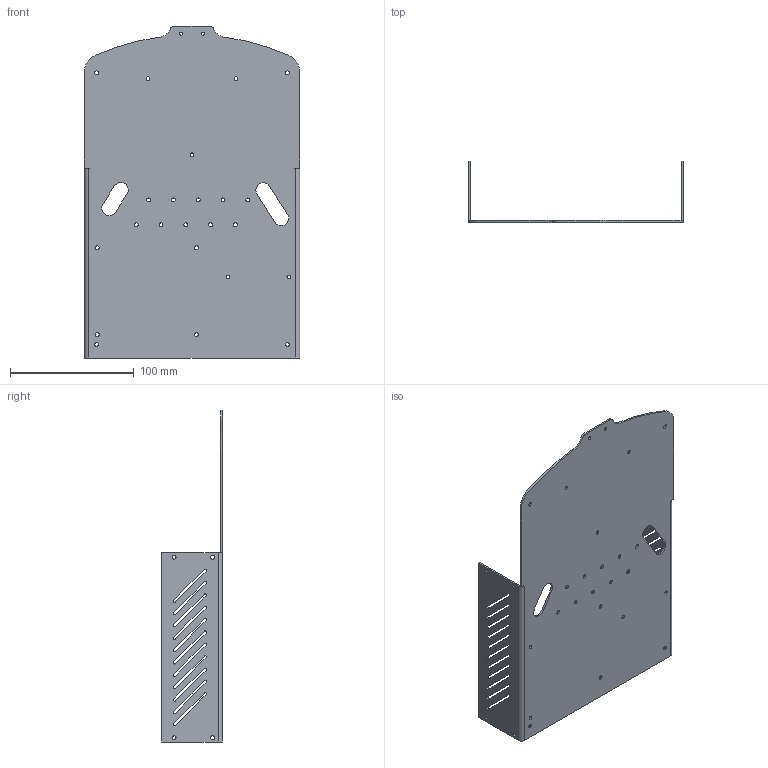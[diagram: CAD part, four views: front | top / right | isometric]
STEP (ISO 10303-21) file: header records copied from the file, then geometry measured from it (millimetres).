
FILE_DESCRIPTION (( 'STEP AP214' ), '1' );
FILE_NAME ('top plate.STEP', '2024-02-28T19:50:28', ( '' ), ( '' ), 'SwSTEP 2.0', 'SolidWorks 2023', '' );
FILE_SCHEMA (( 'AUTOMOTIVE_DESIGN' ));
Length unit declared in the file: millimetre
Products named in the file (1): top plate
Bounding box: 174 x 49.2 x 267.88 mm (x, y, z)
Volume: 83996.2 mm3; surface area: 116808.4 mm2
Topology: 1 solids, 1 shells, 224 faces, 650 edges, 428 vertices
Faces by surface type: cylinder 150, plane 74
Entity records: 7757 total; most frequent: DIRECTION 1400, CARTESIAN_POINT 1303, ORIENTED_EDGE 1300, EDGE_CURVE 650, AXIS2_PLACEMENT_3D 525, VERTEX_POINT 428, VECTOR 350, LINE 350
